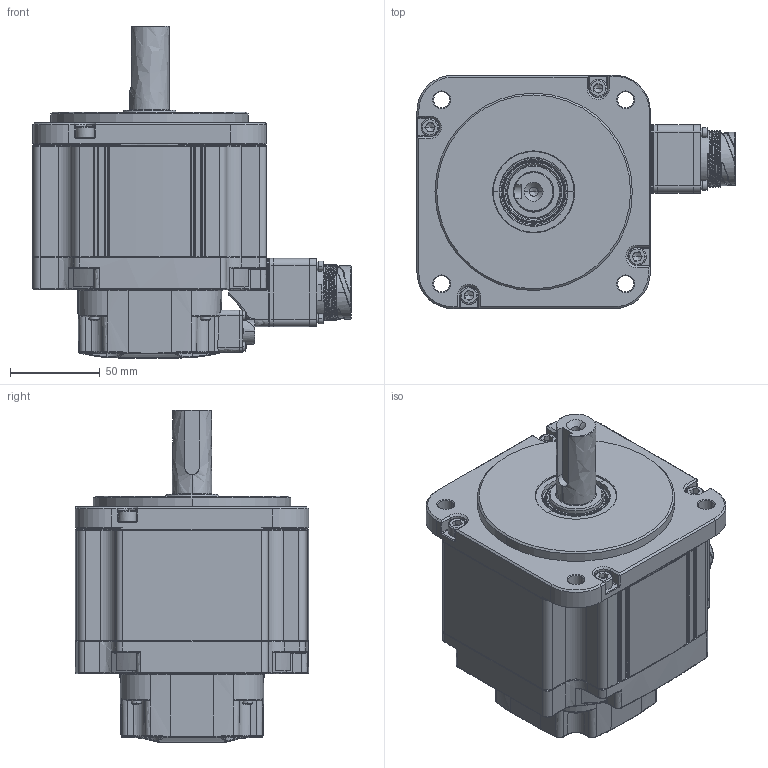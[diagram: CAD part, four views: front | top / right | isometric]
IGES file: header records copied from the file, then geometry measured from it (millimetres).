
Start section: Elysium IGES Interface
Global section: file name: C:\Users\mamenabar\Downloads\FBM-09XXXX2\FBM-09XXXX2.igs; native system: Creo Elements/Direct Modeling 20.4A  18-Oct-2021; preprocessor: Creo Element/Direct IGES_3D V2.2; author: Unknown; organization: Unknown; date: 20241105.150856; units: millimetre
Bounding box: 177.2 x 130 x 185 mm (x, y, z)
Volume: 1715294.4 mm3; surface area: 149246.2 mm2
Topology: 102 solids, 120 shells, 3226 faces, 8247 edges, 5243 vertices
Faces by surface type: bspline 3226
